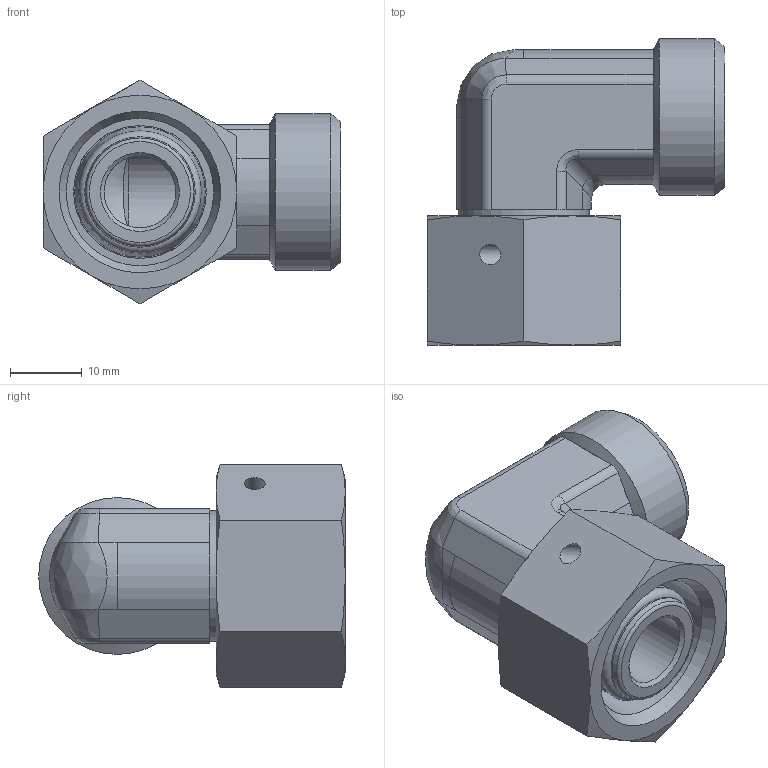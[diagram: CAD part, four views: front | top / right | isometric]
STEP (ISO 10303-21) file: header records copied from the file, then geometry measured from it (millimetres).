
FILE_DESCRIPTION(/* description */ (''),/* implementation_level */ '2;1');
FILE_NAME(/* name */ 'F:\STEP\STEP\STEP Montati\60\6042\604208..stp',/* time_stamp */ '2016-06-14T11:56:16+02:00',/* author */ ('cad2'),/* organization */ (''),/* preprocessor_version */ 'ST-DEVELOPER v15.6',/* originating_system */ 'Autodesk Inventor 2015',/* authorisation */ '');
FILE_SCHEMA (('AUTOMOTIVE_DESIGN { 1 0 10303 214 3 1 1 }'));
Length unit declared in the file: millimetre
Products named in the file (6): #3353; #3354; 000205 - 15L; Parte497; 000205 - 15L - 013606 - 030119; 604208.0
Assembly tree (5 placements, depth 4):
  604208.0
    #3353
    000205 - 15L - 013606 - 030119
      000205 - 15L
        #3354
      Parte497
Bounding box: 41.5 x 42.7 x 31.18 mm (x, y, z)
Volume: 16516.3 mm3; surface area: 10466.5 mm2
Topology: 4 solids, 4 shells, 107 faces, 245 edges, 148 vertices
Faces by surface type: plane 35, cylinder 26, cone 24, torus 12, bspline 10
Full cylindrical faces by diameter (mm): 2.9 x1, 10 x1, 12 x1, 15 x1, 15.1 x1, 18.15 x2, 18.5 x2, 20.55 x1, 21.85 x1
Entity records: 3337 total; most frequent: CARTESIAN_POINT 1141, DIRECTION 456, ORIENTED_EDGE 384, AXIS2_PLACEMENT_3D 200, EDGE_CURVE 192, EDGE_LOOP 149, VERTEX_POINT 127, FACE_OUTER_BOUND 107
